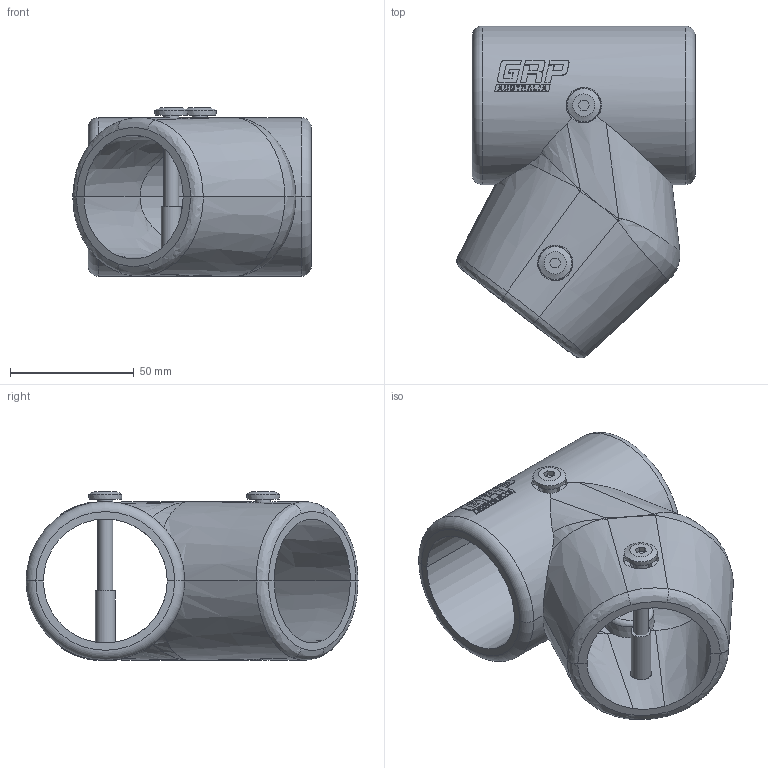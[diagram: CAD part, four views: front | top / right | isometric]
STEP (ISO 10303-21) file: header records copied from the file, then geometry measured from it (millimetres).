
FILE_DESCRIPTION(/* description */ ('FRP HANDRAIL FITTING'),/* implementation_level */ '2;1');
FILE_NAME(/* name */ 'C:\Users\Callum\The Trustee for INKSTONE UNIT TRUST\GRP Australia - Documents\8 Drawings\Handrails\3D Models\Handrail Fittings STEP\MH3-30-45.stp',/* time_stamp */ '2022-09-15T13:53:30+10:00',/* author */ ('Callum'),/* organization */ (''),/* preprocessor_version */ 'ST-DEVELOPER v18.1',/* originating_system */ 'Autodesk Inventor 2022',/* authorisation */ '');
FILE_SCHEMA (('AUTOMOTIVE_DESIGN { 1 0 10303 214 3 1 1 }'));
Length unit declared in the file: millimetre
Products named in the file (5): MH3-30-45 ASSEMBLY; ITERATION 4; MHR M6 BARREL NUT & SET SCREW; M6x8 Barrel Nut; M6x50 Soc Head Screw
Assembly tree (5 placements, depth 3):
  MH3-30-45 ASSEMBLY
    ITERATION 4
    MHR M6 BARREL NUT & SET SCREW  x2
      M6x8 Barrel Nut
      M6x50 Soc Head Screw
Bounding box: 96.26 x 133.99 x 68 mm (x, y, z)
Volume: 197603.5 mm3; surface area: 67470.2 mm2
Topology: 6 solids, 6 shells, 514 faces, 1376 edges, 913 vertices
Faces by surface type: bspline 266, plane 186, cylinder 46, cone 10, torus 6
Full cylindrical faces by diameter (mm): 5 x2, 6 x2, 8 x2, 8.5 x4
Entity records: 21154 total; most frequent: CARTESIAN_POINT 10553, ORIENTED_EDGE 2632, EDGE_CURVE 1316, DIRECTION 1269, VERTEX_POINT 875, LINE 671, VECTOR 671, B_SPLINE_CURVE_WITH_KNOTS 578
